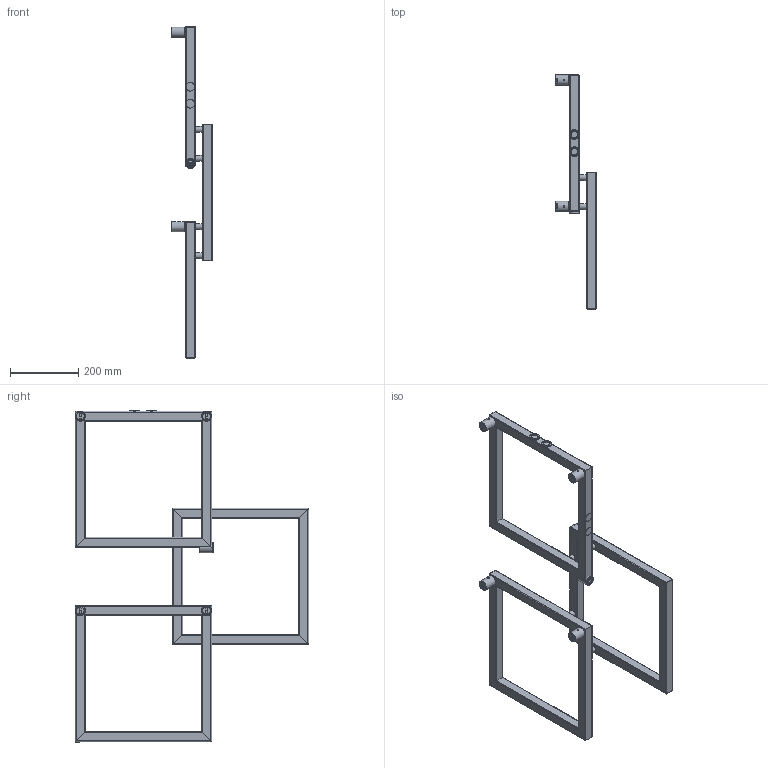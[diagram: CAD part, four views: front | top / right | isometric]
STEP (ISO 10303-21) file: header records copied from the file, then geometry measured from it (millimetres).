
FILE_DESCRIPTION( ( 'Unknown' ), '1' );
FILE_NAME( 'V:/DESIGN PROGRAM/LOCO/STP/LOCO 3.stp', 'Unknown', ( 'Unknown' ), ( 'Unknown' ), 'PSStep 10.1', 'Unknown', ' ' );
FILE_SCHEMA( ( 'AUTOMOTIVE_DESIGN { 1 0 10303 214 1 1 1 1 }' ) );
Length unit declared in the file: millimetre
Products named in the file (16): Ramka 2; Ramka 1; Ramka 3; Mocowanie L40; Assem1; MOCOWANIE L40-01; MOCOWANIE FASOLKA; MOCOWANIE L40-03; czêœæ 1; czêœæ 3; czêœæ 5; czêœæ 6; czêœæ 2; czêœæ 4; ｳｹcznik ; Zaslepka fi 30 z gwintem 
Bounding box: 120 x 685 x 973 mm (x, y, z)
Volume: 1943788 mm3; surface area: 2539661.1 mm2
Topology: 57 solids, 57 shells, 789 faces, 2028 edges, 1350 vertices
Faces by surface type: plane 399, cylinder 354, cone 30, torus 6
Full cylindrical faces by diameter (mm): 4.917 x6, 12.5 x6, 15.5 x6, 16.3 x6, 16.5 x21, 17 x6, 17.2 x6, 18.631 x3, 20 x6, 22 x6, 22.7 x6, 23 x6, 25 x3, 25.25 x6, 29 x3, 30 x6
Entity records: 6503 total; most frequent: CARTESIAN_POINT 1012, DIRECTION 886, ORIENTED_EDGE 738, EDGE_CURVE 369, AXIS2_PLACEMENT_3D 339, VERTEX_POINT 261, EDGE_LOOP 224, LINE 208
